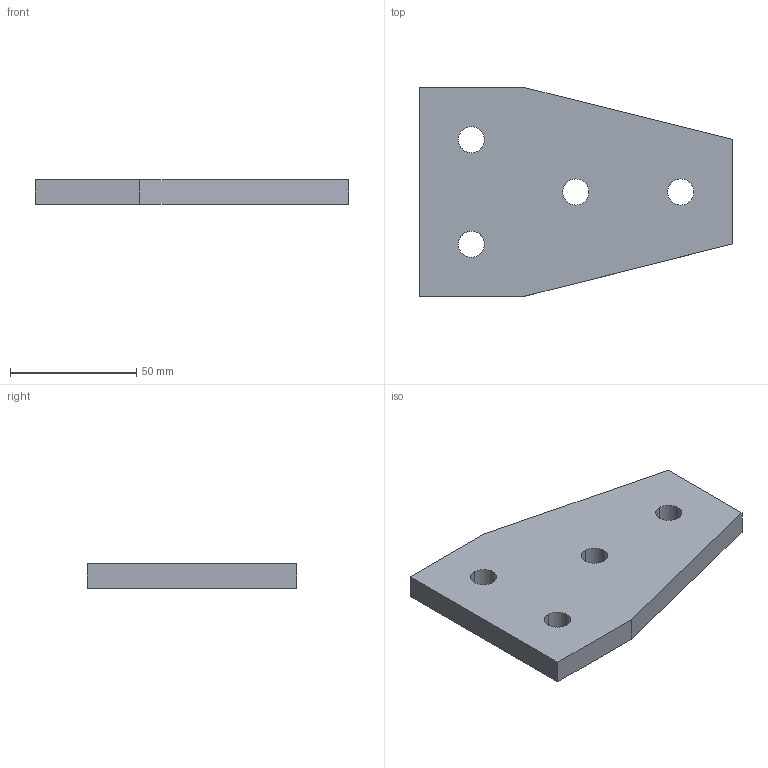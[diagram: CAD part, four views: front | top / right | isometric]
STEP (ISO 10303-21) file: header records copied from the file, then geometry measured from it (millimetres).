
FILE_DESCRIPTION(('TurboCAD Mac Pro'),'Build 980');
FILE_NAME('F20V-2524.stp',' ',(''),(''),'ACIS Interop','IMSI','TurboCAD Mac Pro BY IMSI, INCORPORATED');
FILE_SCHEMA(('automotive_design'));
Length unit declared in the file: inch
Products named in the file (2): 1; 2
Bounding box: 123.98 x 82.75 x 9.53 mm (x, y, z)
Volume: 78237 mm3; surface area: 21259 mm2
Topology: 1 solids, 1 shells, 24 faces, 66 edges, 44 vertices
Faces by surface type: bspline 16, plane 8
Entity records: 1376 total; most frequent: CARTESIAN_POINT 414, ORIENTED_EDGE 132, EDGE_CURVE 66, DIRECTION 60, B_SPLINE_CURVE_WITH_KNOTS 48, STYLED_ITEM 47, PRESENTATION_STYLE_ASSIGNMENT 47, COLOUR_RGB 47
